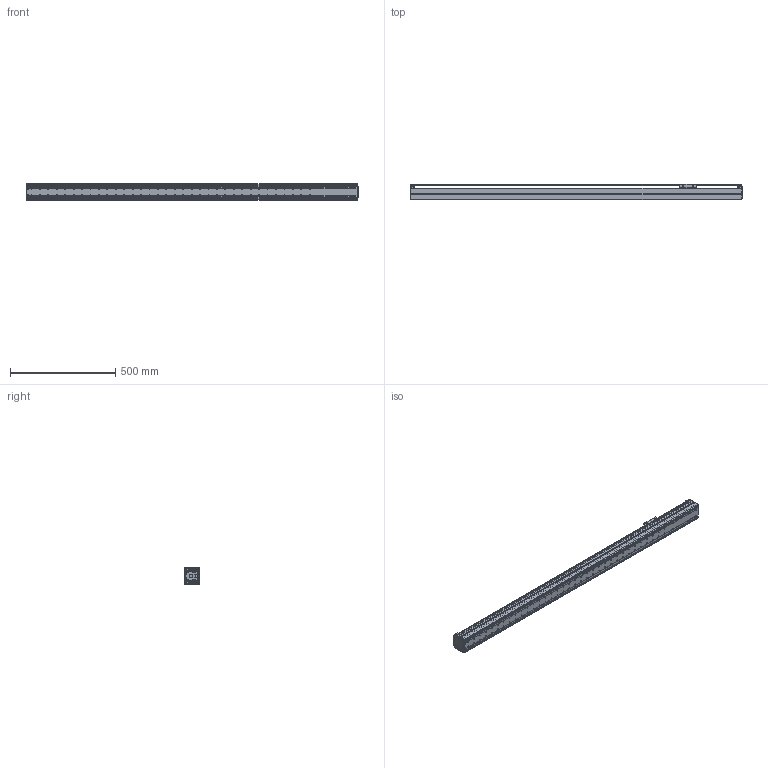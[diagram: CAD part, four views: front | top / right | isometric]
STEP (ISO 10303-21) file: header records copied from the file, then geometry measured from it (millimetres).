
FILE_DESCRIPTION((''),'2;1');
FILE_NAME('BE10E-ST-S_N-C5_IGS_PRT','2017-06-17T',(' '),(''),'PRO/ENGINEER BY PARAMETRIC TECHNOLOGY CORPORATION, 2015030','PRO/ENGINEER BY PARAMETRIC TECHNOLOGY CORPORATION, 2015030','');
FILE_SCHEMA(('CONFIG_CONTROL_DESIGN'));
Length unit declared in the file: millimetre
Products named in the file (1): BE10E-ST-S_N-C5_IGS_PRT
Bounding box: 1575 x 75 x 78 mm (x, y, z)
Volume: 1753439 mm3; surface area: 1152344.6 mm2
Topology: 2 solids, 105 shells, 1332 faces, 3601 edges, 2366 vertices
Faces by surface type: cylinder 712, plane 467, torus 64, sphere 42, cone 38, bspline 9
Entity records: 43704 total; most frequent: CARTESIAN_POINT 9220, DIRECTION 7496, ORIENTED_EDGE 6750, EDGE_CURVE 3577, AXIS2_PLACEMENT_3D 2883, VERTEX_POINT 2366, VECTOR 1730, LINE 1730
